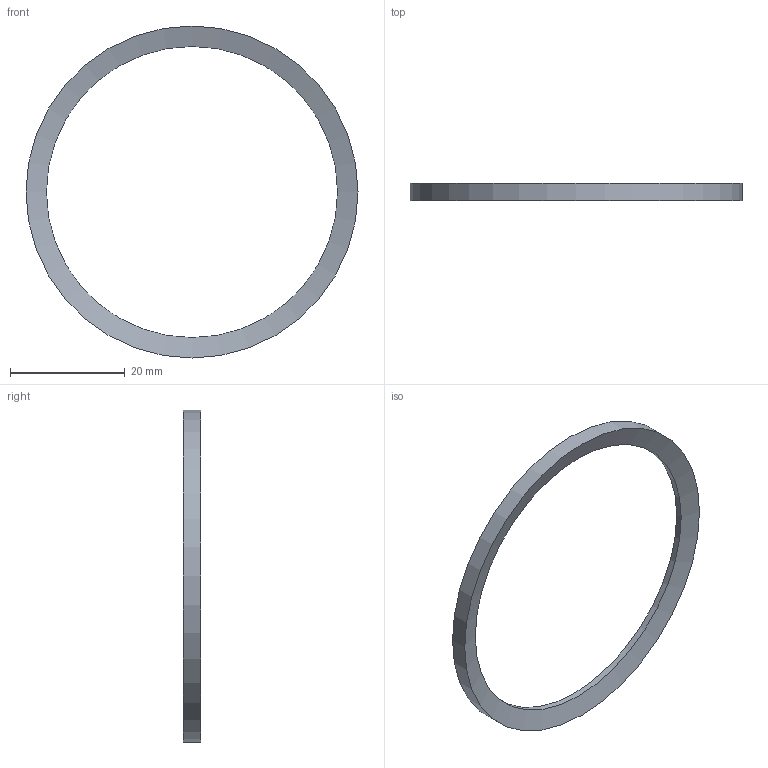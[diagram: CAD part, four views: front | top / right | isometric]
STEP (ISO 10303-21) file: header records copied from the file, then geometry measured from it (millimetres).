
FILE_DESCRIPTION(/* description */ (''),/* implementation_level */ '2;1');
FILE_NAME(/* name */ 'Z:\Geberit\Export\NewStep\361782.stp',/* time_stamp */ '2014-04-01T21:08:02+02:00',/* author */ ('nelson'),/* organization */ (''),/* preprocessor_version */ 'ST-DEVELOPER v15.2',/* originating_system */ 'Autodesk Inventor 2014',/* authorisation */ '');
FILE_SCHEMA (('AUTOMOTIVE_DESIGN { 1 0 10303 214 3 1 1 }'));
Length unit declared in the file: millimetre
Products named in the file (1): 361782
Bounding box: 57.8 x 3 x 57.8 mm (x, y, z)
Volume: 1252.1 mm3; surface area: 1972.3 mm2
Topology: 1 solids, 1 shells, 4 faces, 8 edges, 4 vertices
Faces by surface type: cylinder 2, cone 2
Full cylindrical faces by diameter (mm): 50.7 x1, 57.8 x1
Entity records: 113 total; most frequent: DIRECTION 18, CARTESIAN_POINT 13, AXIS2_PLACEMENT_3D 9, EDGE_LOOP 8, ORIENTED_EDGE 8, STYLED_ITEM 5, FACE_BOUND 4, FACE_OUTER_BOUND 4
